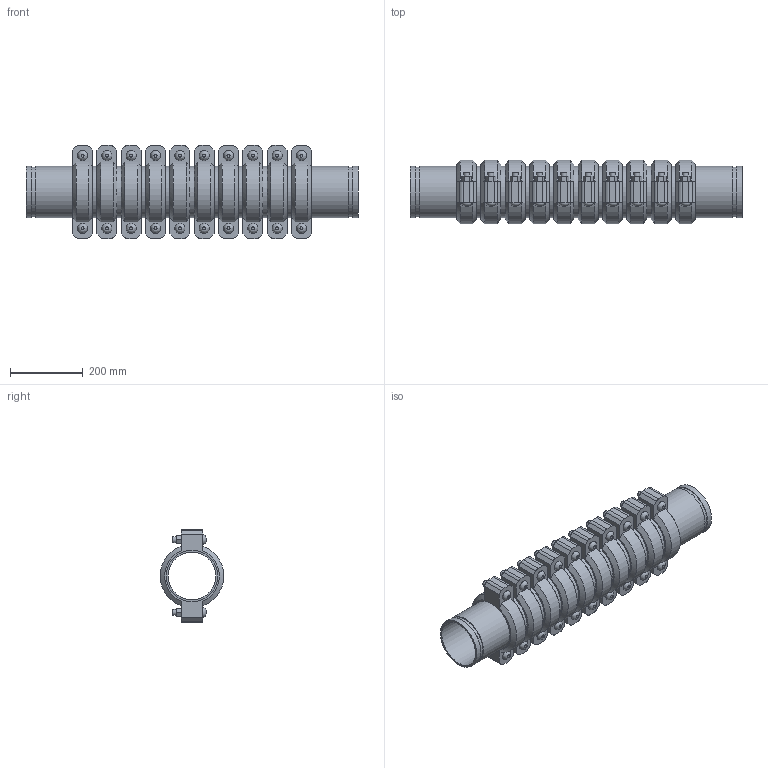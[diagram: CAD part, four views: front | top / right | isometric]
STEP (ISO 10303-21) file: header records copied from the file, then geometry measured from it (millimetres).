
FILE_DESCRIPTION(/* description */ ('VIC EXPANSION JOINT 10 COUPLINGS EXPANDED STYLE 155 (OGS)','CAx-IF Rec.Pracs.---Representation and Presentation of Product Manufacturing Information (PMI)---4.0---2014-10-13'),/* implementation_level */ '2;1');
FILE_NAME(/* name */ 'C:\Users\kkamble\AppData\Roaming\Autodesk\ApplicationPlugins\Victaulic.Temp\A992\Victaulic_IPS_Expansion Joint_Expanded_10 Couplings_Style 155 (OGS)_5 (125).stp',/* time_stamp */ '2021-06-26T23:49:54+02:00',/* author */ ('kkamble'),/* organization */ ('Victaulic'),/* preprocessor_version */ 'ST-DEVELOPER v17.2',/* originating_system */ 'Autodesk Inventor 2019',/* authorisation */ '');
FILE_SCHEMA (('AP242_MANAGED_MODEL_BASED_3D_ENGINEERING_MIM_LF { 1 0 10303 442 1 1 4 }'));
Length unit declared in the file: inch
Products named in the file (4): 155-05.0; Nipple-05.0; Nipple-05.0_1; 075-05.0
Assembly tree (21 placements, depth 2):
  155-05.0
    Nipple-05.0  x2
    Nipple-05.0_1  x9
    075-05.0  x10
Bounding box: 911.61 x 174.16 x 255.78 mm (x, y, z)
Volume: 8477871.6 mm3; surface area: 1852401.7 mm2
Topology: 21 solids, 41 shells, 702 faces, 1660 edges, 1164 vertices
Faces by surface type: plane 426, cylinder 216, cone 40, bspline 20
Full cylindrical faces by diameter (mm): 15.875 x40, 17.424 x20, 130.988 x11, 134.95 x10, 137.033 x22, 141.3 x53
Entity records: 2881 total; most frequent: CARTESIAN_POINT 505, DIRECTION 485, ORIENTED_EDGE 386, AXIS2_PLACEMENT_3D 196, EDGE_CURVE 193, VERTEX_POINT 138, EDGE_LOOP 107, LINE 93
